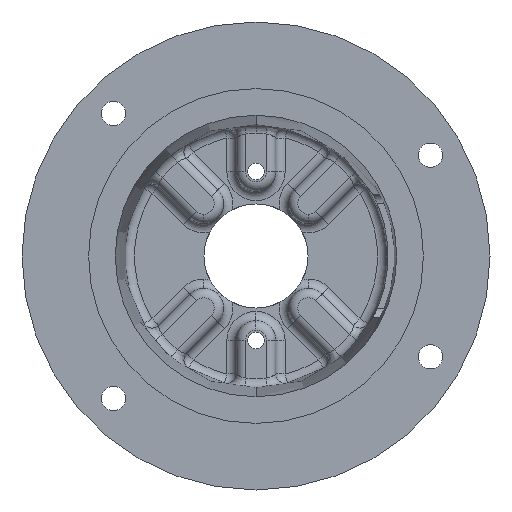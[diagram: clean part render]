
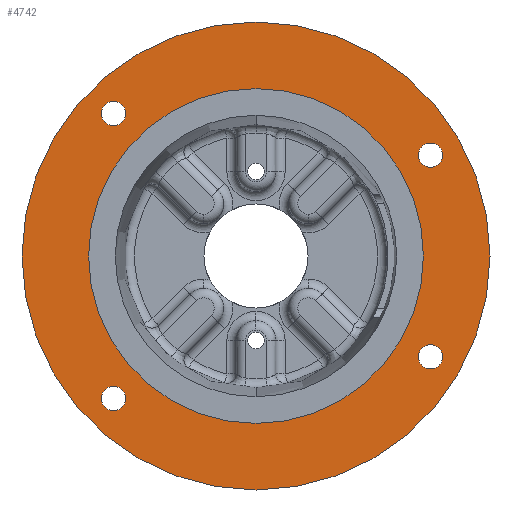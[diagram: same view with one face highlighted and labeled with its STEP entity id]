
A CAD part, front view. The second image highlights one B-rep face of the part: STEP entity #4742.
In plain terms, the highlighted planar face has unit normal (0, -1, 0).
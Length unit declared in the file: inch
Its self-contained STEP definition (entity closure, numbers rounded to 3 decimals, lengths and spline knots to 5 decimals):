
#11 = DIRECTION ( 'NONE',  ( 0., -1., 0. ) ) ;
#25 = CARTESIAN_POINT ( 'NONE',  ( -2.74004, 0., -2.74004 ) ) ;
#111 = ORIENTED_EDGE ( 'NONE', *, *, #5230, .T. ) ;
#210 = CARTESIAN_POINT ( 'NONE',  ( -2.74004, 0., 2.50566 ) ) ;
#248 = VERTEX_POINT ( 'NONE', #591 ) ;
#383 = EDGE_CURVE ( 'NONE', #4617, #4844, #1814, .T. ) ;
#506 = EDGE_LOOP ( 'NONE', ( #581, #2959 ) ) ;
#581 = ORIENTED_EDGE ( 'NONE', *, *, #2864, .F. ) ;
#591 = CARTESIAN_POINT ( 'NONE',  ( 0., 0., -3.2195 ) ) ;
#597 = AXIS2_PLACEMENT_3D ( 'NONE', #6207, #6206, #6203 ) ;
#653 = VERTEX_POINT ( 'NONE', #5530 ) ;
#723 = VERTEX_POINT ( 'NONE', #5379 ) ;
#745 = EDGE_CURVE ( 'NONE', #3730, #5931, #5763, .T. ) ;
#947 = DIRECTION ( 'NONE',  ( 0., 0., -1. ) ) ;
#1053 = CIRCLE ( 'NONE', #3433, 4.5 ) ;
#1054 = AXIS2_PLACEMENT_3D ( 'NONE', #2684, #2710, #2629 ) ;
#1068 = VERTEX_POINT ( 'NONE', #210 ) ;
#1073 = CARTESIAN_POINT ( 'NONE',  ( 3.35585, 0., 1.9375 ) ) ;
#1135 = DIRECTION ( 'NONE',  ( 0., -1., 0. ) ) ;
#1196 = FACE_BOUND ( 'NONE', #4701, .T. ) ;
#1337 = FACE_BOUND ( 'NONE', #4359, .T. ) ;
#1345 = CARTESIAN_POINT ( 'NONE',  ( 3.35585, 0., -1.70312 ) ) ;
#1357 = AXIS2_PLACEMENT_3D ( 'NONE', #1397, #1379, #1391 ) ;
#1379 = DIRECTION ( 'NONE',  ( 0., -1., 0. ) ) ;
#1391 = DIRECTION ( 'NONE',  ( 0., 0., -1. ) ) ;
#1397 = CARTESIAN_POINT ( 'NONE',  ( 3.35585, 0., -1.9375 ) ) ;
#1448 = CIRCLE ( 'NONE', #3776, 3.2195 ) ;
#1472 = CARTESIAN_POINT ( 'NONE',  ( 3.35585, 0., 2.17188 ) ) ;
#1486 = VERTEX_POINT ( 'NONE', #6194 ) ;
#1498 = EDGE_CURVE ( 'NONE', #1486, #1658, #4058, .T. ) ;
#1658 = VERTEX_POINT ( 'NONE', #5385 ) ;
#1665 = CARTESIAN_POINT ( 'NONE',  ( 3.35585, 0., -1.9375 ) ) ;
#1727 = DIRECTION ( 'NONE',  ( 0., 0., -1. ) ) ;
#1759 = ORIENTED_EDGE ( 'NONE', *, *, #2739, .F. ) ;
#1773 = CARTESIAN_POINT ( 'NONE',  ( 3.35585, 0., -2.17187 ) ) ;
#1814 = CIRCLE ( 'NONE', #2712, 0.23438 ) ;
#1875 = EDGE_CURVE ( 'NONE', #4256, #1068, #3366, .T. ) ;
#1983 = CIRCLE ( 'NONE', #1357, 0.23438 ) ;
#1993 = ORIENTED_EDGE ( 'NONE', *, *, #2515, .F. ) ;
#2280 = ORIENTED_EDGE ( 'NONE', *, *, #2700, .F. ) ;
#2509 = FACE_BOUND ( 'NONE', #4229, .T. ) ;
#2515 = EDGE_CURVE ( 'NONE', #653, #248, #1448, .T. ) ;
#2629 = DIRECTION ( 'NONE',  ( 0., 0., -1. ) ) ;
#2673 = FACE_BOUND ( 'NONE', #506, .T. ) ;
#2684 = CARTESIAN_POINT ( 'NONE',  ( 3.35585, 0., 1.9375 ) ) ;
#2700 = EDGE_CURVE ( 'NONE', #4844, #4617, #4730, .T. ) ;
#2710 = DIRECTION ( 'NONE',  ( 0., -1., 0. ) ) ;
#2712 = AXIS2_PLACEMENT_3D ( 'NONE', #1073, #1135, #947 ) ;
#2739 = EDGE_CURVE ( 'NONE', #5931, #3730, #1983, .T. ) ;
#2852 = EDGE_CURVE ( 'NONE', #723, #5382, #4129, .T. ) ;
#2864 = EDGE_CURVE ( 'NONE', #5382, #723, #5258, .T. ) ;
#2959 = ORIENTED_EDGE ( 'NONE', *, *, #2852, .F. ) ;
#3044 = EDGE_CURVE ( 'NONE', #1068, #4256, #5865, .T. ) ;
#3082 = AXIS2_PLACEMENT_3D ( 'NONE', #4689, #4682, #4663 ) ;
#3173 = DIRECTION ( 'NONE',  ( 0., -1., 0. ) ) ;
#3243 = EDGE_LOOP ( 'NONE', ( #4094, #1993 ) ) ;
#3267 = EDGE_CURVE ( 'NONE', #248, #653, #5410, .T. ) ;
#3363 = CARTESIAN_POINT ( 'NONE',  ( -2.74004, 0., -2.97441 ) ) ;
#3366 = CIRCLE ( 'NONE', #3082, 0.23438 ) ;
#3422 = DIRECTION ( 'NONE',  ( 0., 0., -1. ) ) ;
#3432 = DIRECTION ( 'NONE',  ( 0., -1., 0. ) ) ;
#3433 = AXIS2_PLACEMENT_3D ( 'NONE', #3713, #3710, #3704 ) ;
#3440 = CARTESIAN_POINT ( 'NONE',  ( 0., 0., 0. ) ) ;
#3704 = DIRECTION ( 'NONE',  ( 0., 0., -1. ) ) ;
#3710 = DIRECTION ( 'NONE',  ( 0., -1., 0. ) ) ;
#3713 = CARTESIAN_POINT ( 'NONE',  ( 0., 0., 0. ) ) ;
#3730 = VERTEX_POINT ( 'NONE', #1345 ) ;
#3765 = DIRECTION ( 'NONE',  ( 0., 0., -1. ) ) ;
#3776 = AXIS2_PLACEMENT_3D ( 'NONE', #3989, #4102, #4053 ) ;
#3989 = CARTESIAN_POINT ( 'NONE',  ( 0., 0., 0. ) ) ;
#4053 = DIRECTION ( 'NONE',  ( 0., 0., -1. ) ) ;
#4058 = CIRCLE ( 'NONE', #6220, 4.5 ) ;
#4094 = ORIENTED_EDGE ( 'NONE', *, *, #3267, .F. ) ;
#4102 = DIRECTION ( 'NONE',  ( 0., -1., 0. ) ) ;
#4120 = ORIENTED_EDGE ( 'NONE', *, *, #383, .F. ) ;
#4129 = CIRCLE ( 'NONE', #5282, 0.23437 ) ;
#4199 = DIRECTION ( 'NONE',  ( 0., 0., -1. ) ) ;
#4204 = DIRECTION ( 'NONE',  ( 0., -1., 0. ) ) ;
#4210 = CARTESIAN_POINT ( 'NONE',  ( -2.74004, 0., 2.74004 ) ) ;
#4229 = EDGE_LOOP ( 'NONE', ( #2280, #4120 ) ) ;
#4250 = DIRECTION ( 'NONE',  ( 0., -1., 0. ) ) ;
#4256 = VERTEX_POINT ( 'NONE', #5973 ) ;
#4359 = EDGE_LOOP ( 'NONE', ( #5882, #5223 ) ) ;
#4422 = AXIS2_PLACEMENT_3D ( 'NONE', #1665, #3173, #1727 ) ;
#4528 = ORIENTED_EDGE ( 'NONE', *, *, #1498, .T. ) ;
#4617 = VERTEX_POINT ( 'NONE', #1472 ) ;
#4657 = ORIENTED_EDGE ( 'NONE', *, *, #745, .F. ) ;
#4663 = DIRECTION ( 'NONE',  ( 0., 0., -1. ) ) ;
#4673 = EDGE_LOOP ( 'NONE', ( #4528, #111 ) ) ;
#4682 = DIRECTION ( 'NONE',  ( 0., -1., 0. ) ) ;
#4689 = CARTESIAN_POINT ( 'NONE',  ( -2.74004, 0., 2.74004 ) ) ;
#4701 = EDGE_LOOP ( 'NONE', ( #1759, #4657 ) ) ;
#4719 = AXIS2_PLACEMENT_3D ( 'NONE', #3440, #3432, #3422 ) ;
#4722 = CARTESIAN_POINT ( 'NONE',  ( 0., 0., 0. ) ) ;
#4730 = CIRCLE ( 'NONE', #1054, 0.23438 ) ;
#4742 = ADVANCED_FACE ( 'NONE', ( #2509, #1196, #2673, #1337, #6236, #4932 ), #5952, .F. ) ;
#4844 = VERTEX_POINT ( 'NONE', #5456 ) ;
#4932 = FACE_OUTER_BOUND ( 'NONE', #4673, .T. ) ;
#5223 = ORIENTED_EDGE ( 'NONE', *, *, #1875, .F. ) ;
#5230 = EDGE_CURVE ( 'NONE', #1658, #1486, #1053, .T. ) ;
#5258 = CIRCLE ( 'NONE', #597, 0.23437 ) ;
#5282 = AXIS2_PLACEMENT_3D ( 'NONE', #25, #11, #6277 ) ;
#5379 = CARTESIAN_POINT ( 'NONE',  ( -2.74004, 0., -2.50566 ) ) ;
#5382 = VERTEX_POINT ( 'NONE', #3363 ) ;
#5385 = CARTESIAN_POINT ( 'NONE',  ( 0., 0., 4.5 ) ) ;
#5410 = CIRCLE ( 'NONE', #4719, 3.2195 ) ;
#5456 = CARTESIAN_POINT ( 'NONE',  ( 3.35585, 0., 1.70313 ) ) ;
#5530 = CARTESIAN_POINT ( 'NONE',  ( 0., 0., 3.2195 ) ) ;
#5623 = AXIS2_PLACEMENT_3D ( 'NONE', #5905, #5871, #5869 ) ;
#5763 = CIRCLE ( 'NONE', #4422, 0.23438 ) ;
#5865 = CIRCLE ( 'NONE', #6148, 0.23438 ) ;
#5869 = DIRECTION ( 'NONE',  ( 0., 0., 1. ) ) ;
#5871 = DIRECTION ( 'NONE',  ( 0., 1., 0. ) ) ;
#5882 = ORIENTED_EDGE ( 'NONE', *, *, #3044, .F. ) ;
#5905 = CARTESIAN_POINT ( 'NONE',  ( -4.5, 0., 0. ) ) ;
#5931 = VERTEX_POINT ( 'NONE', #1773 ) ;
#5952 = PLANE ( 'NONE',  #5623 ) ;
#5973 = CARTESIAN_POINT ( 'NONE',  ( -2.74004, 0., 2.97441 ) ) ;
#6148 = AXIS2_PLACEMENT_3D ( 'NONE', #4210, #4204, #4199 ) ;
#6194 = CARTESIAN_POINT ( 'NONE',  ( 0., 0., -4.5 ) ) ;
#6203 = DIRECTION ( 'NONE',  ( 0., 0., -1. ) ) ;
#6206 = DIRECTION ( 'NONE',  ( 0., -1., 0. ) ) ;
#6207 = CARTESIAN_POINT ( 'NONE',  ( -2.74004, 0., -2.74004 ) ) ;
#6220 = AXIS2_PLACEMENT_3D ( 'NONE', #4722, #4250, #3765 ) ;
#6236 = FACE_BOUND ( 'NONE', #3243, .T. ) ;
#6277 = DIRECTION ( 'NONE',  ( 0., 0., -1. ) ) ;
